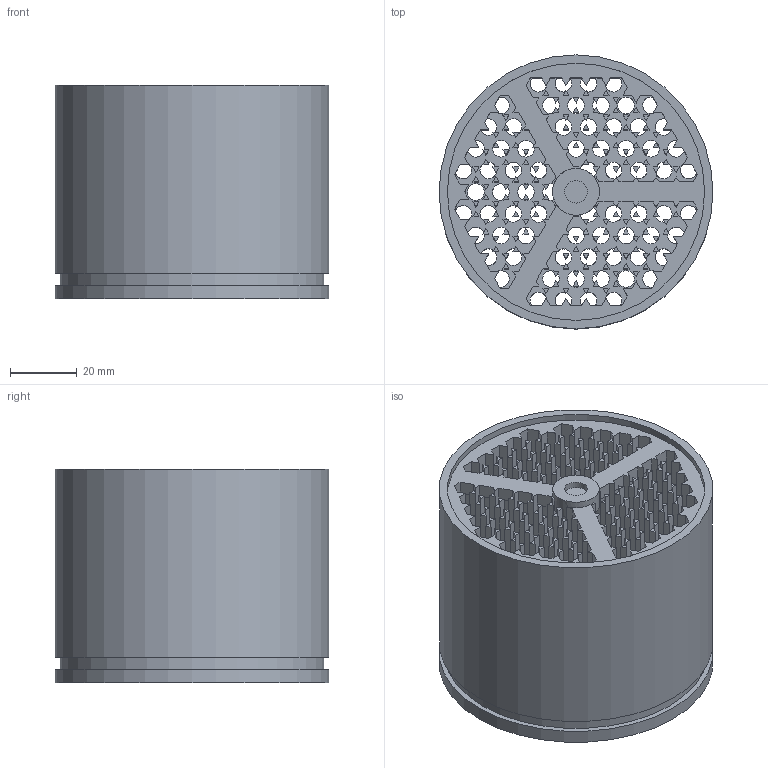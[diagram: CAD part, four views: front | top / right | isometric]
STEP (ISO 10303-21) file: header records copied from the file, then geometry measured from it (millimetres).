
FILE_DESCRIPTION(('Open CASCADE Model'),'2;1');
FILE_NAME('Open CASCADE Shape Model','2026-09-07T11:14:13',('Author'),( 'Open CASCADE'),'Open CASCADE STEP processor 7.9','Open CASCADE 7.9' ,'Unknown');
FILE_SCHEMA(('AUTOMOTIVE_DESIGN { 1 0 10303 214 1 1 1 1 }'));
Length unit declared in the file: millimetre
Products named in the file (38): Open CASCADE STEP translator 7.9 19; Open CASCADE STEP translator 7.9 19.1; Open CASCADE STEP translator 7.9 19.2; Open CASCADE STEP translator 7.9 19.3; Open CASCADE STEP translator 7.9 19.4; Open CASCADE STEP translator 7.9 19.5; Open CASCADE STEP translator 7.9 19.6; Open CASCADE STEP translator 7.9 19.7; Open CASCADE STEP translator 7.9 19.8; Open CASCADE STEP translator 7.9 19.9; Open CASCADE STEP translator 7.9 19.10; Open CASCADE STEP translator 7.9 19.11; Open CASCADE STEP translator 7.9 19.12; Open CASCADE STEP translator 7.9 19.13; Open CASCADE STEP translator 7.9 19.14; Open CASCADE STEP translator 7.9 19.15; Open CASCADE STEP translator 7.9 19.16; Open CASCADE STEP translator 7.9 19.17; Open CASCADE STEP translator 7.9 19.18; Open CASCADE STEP translator 7.9 19.19; Open CASCADE STEP translator 7.9 19.20; Open CASCADE STEP translator 7.9 19.21; Open CASCADE STEP translator 7.9 19.22; Open CASCADE STEP translator 7.9 19.23; Open CASCADE STEP translator 7.9 19.24; Open CASCADE STEP translator 7.9 19.25; Open CASCADE STEP translator 7.9 19.26; Open CASCADE STEP translator 7.9 19.27; Open CASCADE STEP translator 7.9 19.28; Open CASCADE STEP translator 7.9 19.29; Open CASCADE STEP translator 7.9 19.30; Open CASCADE STEP translator 7.9 19.31; Open CASCADE STEP translator 7.9 19.32; Open CASCADE STEP translator 7.9 19.33; Open CASCADE STEP translator 7.9 19.34; Open CASCADE STEP translator 7.9 19.35; Open CASCADE STEP translator 7.9 19.36; Open CASCADE STEP translator 7.9 19.37
Assembly tree (37 placements, depth 2):
  Open CASCADE STEP translator 7.9 19
    Open CASCADE STEP translator 7.9 19.1
    Open CASCADE STEP translator 7.9 19.2
    Open CASCADE STEP translator 7.9 19.3
    Open CASCADE STEP translator 7.9 19.4
    Open CASCADE STEP translator 7.9 19.5
    Open CASCADE STEP translator 7.9 19.6
    Open CASCADE STEP translator 7.9 19.7
    Open CASCADE STEP translator 7.9 19.8
    Open CASCADE STEP translator 7.9 19.9
    Open CASCADE STEP translator 7.9 19.10
    Open CASCADE STEP translator 7.9 19.11
    Open CASCADE STEP translator 7.9 19.12
    Open CASCADE STEP translator 7.9 19.13
    Open CASCADE STEP translator 7.9 19.14
    Open CASCADE STEP translator 7.9 19.15
    Open CASCADE STEP translator 7.9 19.16
    Open CASCADE STEP translator 7.9 19.17
    Open CASCADE STEP translator 7.9 19.18
    Open CASCADE STEP translator 7.9 19.19
    Open CASCADE STEP translator 7.9 19.20
    Open CASCADE STEP translator 7.9 19.21
    Open CASCADE STEP translator 7.9 19.22
    Open CASCADE STEP translator 7.9 19.23
    Open CASCADE STEP translator 7.9 19.24
    Open CASCADE STEP translator 7.9 19.25
    Open CASCADE STEP translator 7.9 19.26
    Open CASCADE STEP translator 7.9 19.27
    Open CASCADE STEP translator 7.9 19.28
    Open CASCADE STEP translator 7.9 19.29
    Open CASCADE STEP translator 7.9 19.30
    Open CASCADE STEP translator 7.9 19.31
    Open CASCADE STEP translator 7.9 19.32
    Open CASCADE STEP translator 7.9 19.33
    Open CASCADE STEP translator 7.9 19.34
    Open CASCADE STEP translator 7.9 19.35
    Open CASCADE STEP translator 7.9 19.36
    Open CASCADE STEP translator 7.9 19.37
Bounding box: 82 x 82 x 64 mm (x, y, z)
Volume: 136685.8 mm3; surface area: 113224.4 mm2
Topology: 37 solids, 37 shells, 1162 faces, 3129 edges, 2006 vertices
Faces by surface type: plane 1071, cylinder 91
Full cylindrical faces by diameter (mm): 5 x85, 6.8 x1, 14 x1, 77 x1, 78.9 x1, 82 x2
Entity records: 74569 total; most frequent: CARTESIAN_POINT 19361, DIRECTION 7542, ORIENTED_EDGE 6258, PCURVE 6258, DEFINITIONAL_REPRESENTATION 6258, LINE 4277, VECTOR 4277, B_SPLINE_CURVE_WITH_KNOTS 4254
